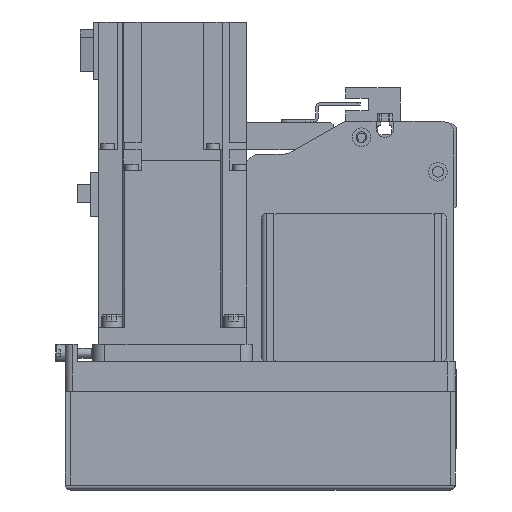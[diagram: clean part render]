
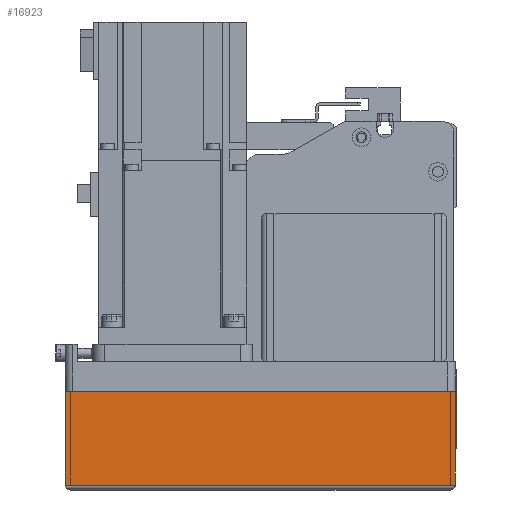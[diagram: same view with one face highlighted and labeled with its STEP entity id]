
A CAD part, left-side view. The second image highlights one B-rep face of the part: STEP entity #16923.
In plain terms, the highlighted planar face has unit normal (-1, 0, 0) as drawn and (0, -1, 0) by its records, which use the part's own axes.
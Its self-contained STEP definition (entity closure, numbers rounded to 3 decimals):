
#2664=ORIENTED_EDGE('',*,*,#6799,.F.);
#2665=ORIENTED_EDGE('',*,*,#6781,.F.);
#2666=ORIENTED_EDGE('',*,*,#6816,.T.);
#2667=ORIENTED_EDGE('',*,*,#6871,.T.);
#6781=EDGE_CURVE('',#9039,#9040,#10765,.T.);
#6799=EDGE_CURVE('',#9040,#9056,#10783,.T.);
#6816=EDGE_CURVE('',#9039,#9066,#10796,.T.);
#6871=EDGE_CURVE('',#9066,#9056,#10824,.T.);
#9039=VERTEX_POINT('',#25976);
#9040=VERTEX_POINT('',#25977);
#9056=VERTEX_POINT('',#26014);
#9066=VERTEX_POINT('',#26044);
#10765=LINE('',#25975,#12365);
#10783=LINE('',#26013,#12383);
#10796=LINE('',#26045,#12396);
#10824=LINE('',#26143,#12424);
#12365=VECTOR('',#20795,1000.);
#12383=VECTOR('',#20819,1000.);
#12396=VECTOR('',#20848,1000.);
#12424=VECTOR('',#20976,1000.);
#13853=EDGE_LOOP('',(#2664,#2665,#2666,#2667));
#15113=FACE_BOUND('',#13853,.T.);
#16200=PLANE('',#18160);
#16923=ADVANCED_FACE('',(#15113),#16200,.T.);
#18160=AXIS2_PLACEMENT_3D('',#26144,#20977,#20978);
#20795=DIRECTION('',(1.,0.,0.));
#20819=DIRECTION('',(0.,0.,-1.));
#20848=DIRECTION('',(0.,0.,-1.));
#20976=DIRECTION('',(1.,0.,0.));
#20977=DIRECTION('',(0.,-1.,0.));
#20978=DIRECTION('',(0.,0.,-1.));
#25975=CARTESIAN_POINT('',(-158.,-39.,-12.1));
#25976=CARTESIAN_POINT('',(-158.,-39.,-12.1));
#25977=CARTESIAN_POINT('',(0.,-39.,-12.1));
#26013=CARTESIAN_POINT('',(0.,-39.,-12.1));
#26014=CARTESIAN_POINT('',(0.,-39.,-50.));
#26044=CARTESIAN_POINT('',(-158.,-39.,-50.));
#26045=CARTESIAN_POINT('',(-158.,-39.,-12.1));
#26143=CARTESIAN_POINT('',(-158.,-39.,-50.));
#26144=CARTESIAN_POINT('',(-158.,-39.,-12.1));
